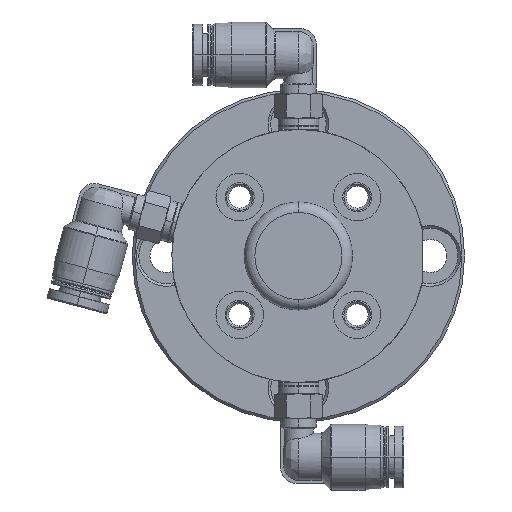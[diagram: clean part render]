
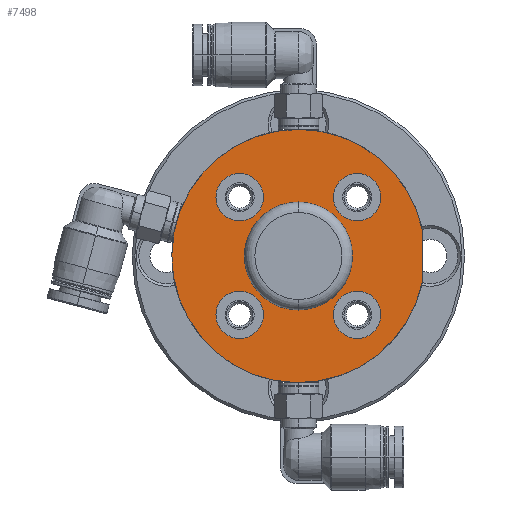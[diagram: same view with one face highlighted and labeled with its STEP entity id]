
A CAD part, front view. The second image highlights one B-rep face of the part: STEP entity #7498.
In plain terms, the highlighted planar face has unit normal (0, -1, 0).
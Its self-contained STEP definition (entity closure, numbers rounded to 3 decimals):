
#25 = VERTEX_POINT ( 'NONE', #13741 ) ;
#233 = CARTESIAN_POINT ( 'NONE',  ( 15.637, -22., -11.137 ) ) ;
#683 = CARTESIAN_POINT ( 'NONE',  ( -10.25, -22., 0. ) ) ;
#696 = AXIS2_PLACEMENT_3D ( 'NONE', #1076, #11694, #2615 ) ;
#739 = CIRCLE ( 'NONE', #2183, 4.5 ) ;
#836 = ORIENTED_EDGE ( 'NONE', *, *, #11054, .F. ) ;
#1005 = DIRECTION ( 'NONE',  ( -1., 0., 0. ) ) ;
#1052 = ORIENTED_EDGE ( 'NONE', *, *, #2400, .F. ) ;
#1076 = CARTESIAN_POINT ( 'NONE',  ( 11.137, -22., -11.137 ) ) ;
#1233 = ORIENTED_EDGE ( 'NONE', *, *, #15969, .F. ) ;
#1262 = AXIS2_PLACEMENT_3D ( 'NONE', #2568, #7577, #7435 ) ;
#1487 = ORIENTED_EDGE ( 'NONE', *, *, #17312, .F. ) ;
#1555 = ORIENTED_EDGE ( 'NONE', *, *, #11348, .T. ) ;
#1682 = EDGE_CURVE ( 'NONE', #8990, #12522, #2229, .T. ) ;
#1754 = VECTOR ( 'NONE', #2749, 1000. ) ;
#1881 = AXIS2_PLACEMENT_3D ( 'NONE', #6937, #17575, #8469 ) ;
#2022 = ORIENTED_EDGE ( 'NONE', *, *, #15635, .F. ) ;
#2056 = EDGE_LOOP ( 'NONE', ( #1487, #10799 ) ) ;
#2183 = AXIS2_PLACEMENT_3D ( 'NONE', #19328, #14458, #14476 ) ;
#2218 = EDGE_CURVE ( 'NONE', #2551, #7337, #739, .T. ) ;
#2229 = CIRCLE ( 'NONE', #1262, 4.5 ) ;
#2400 = EDGE_CURVE ( 'NONE', #7337, #2551, #9776, .T. ) ;
#2473 = FACE_OUTER_BOUND ( 'NONE', #15621, .T. ) ;
#2551 = VERTEX_POINT ( 'NONE', #7405 ) ;
#2568 = CARTESIAN_POINT ( 'NONE',  ( 11.137, -22., 11.137 ) ) ;
#2615 = DIRECTION ( 'NONE',  ( -1., 0., 0. ) ) ;
#2749 = DIRECTION ( 'NONE',  ( 0., 0., 1. ) ) ;
#3749 = VERTEX_POINT ( 'NONE', #8850 ) ;
#3756 = DIRECTION ( 'NONE',  ( 0., -1., 0. ) ) ;
#3811 = CARTESIAN_POINT ( 'NONE',  ( -11.137, -22., -11.137 ) ) ;
#4041 = AXIS2_PLACEMENT_3D ( 'NONE', #12810, #3756, #14359 ) ;
#4485 = CIRCLE ( 'NONE', #18069, 4.5 ) ;
#4916 = DIRECTION ( 'NONE',  ( 0., 1., 0. ) ) ;
#5148 = DIRECTION ( 'NONE',  ( 0., -1., 0. ) ) ;
#5327 = CIRCLE ( 'NONE', #1881, 4.5 ) ;
#5580 = AXIS2_PLACEMENT_3D ( 'NONE', #13989, #4916, #15518 ) ;
#5826 = LINE ( 'NONE', #7173, #1754 ) ;
#6217 = CARTESIAN_POINT ( 'NONE',  ( 0., -22., 0. ) ) ;
#6480 = CARTESIAN_POINT ( 'NONE',  ( -11.137, -22., 11.137 ) ) ;
#6555 = FACE_BOUND ( 'NONE', #13467, .T. ) ;
#6933 = AXIS2_PLACEMENT_3D ( 'NONE', #3811, #8240, #6963 ) ;
#6937 = CARTESIAN_POINT ( 'NONE',  ( 11.137, -22., 11.137 ) ) ;
#6958 = CARTESIAN_POINT ( 'NONE',  ( 6.637, -22., 11.137 ) ) ;
#6963 = DIRECTION ( 'NONE',  ( -1., 0., 0. ) ) ;
#7077 = ORIENTED_EDGE ( 'NONE', *, *, #11667, .F. ) ;
#7089 = VERTEX_POINT ( 'NONE', #17279 ) ;
#7173 = CARTESIAN_POINT ( 'NONE',  ( 23.5, -22., 0. ) ) ;
#7337 = VERTEX_POINT ( 'NONE', #13917 ) ;
#7405 = CARTESIAN_POINT ( 'NONE',  ( -15.637, -22., -11.137 ) ) ;
#7435 = DIRECTION ( 'NONE',  ( -1., 0., 0. ) ) ;
#7498 = ADVANCED_FACE ( 'NONE', ( #18699, #15057, #10559, #6555, #14585, #2473 ), #11363, .F. ) ;
#7510 = DIRECTION ( 'NONE',  ( 0., -1., 0. ) ) ;
#7549 = ORIENTED_EDGE ( 'NONE', *, *, #12096, .F. ) ;
#7577 = DIRECTION ( 'NONE',  ( 0., -1., 0. ) ) ;
#7752 = DIRECTION ( 'NONE',  ( 1., 0., 0. ) ) ;
#8026 = CARTESIAN_POINT ( 'NONE',  ( 15.637, -22., 11.137 ) ) ;
#8031 = DIRECTION ( 'NONE',  ( -1., 0., 0. ) ) ;
#8240 = DIRECTION ( 'NONE',  ( 0., -1., 0. ) ) ;
#8433 = CARTESIAN_POINT ( 'NONE',  ( 0., -22., 0. ) ) ;
#8469 = DIRECTION ( 'NONE',  ( -1., 0., 0. ) ) ;
#8850 = CARTESIAN_POINT ( 'NONE',  ( -6.637, -22., 11.137 ) ) ;
#8990 = VERTEX_POINT ( 'NONE', #8026 ) ;
#9434 = EDGE_LOOP ( 'NONE', ( #7077, #2022 ) ) ;
#9776 = CIRCLE ( 'NONE', #6933, 4.5 ) ;
#9922 = DIRECTION ( 'NONE',  ( 0., 0., 1. ) ) ;
#10135 = DIRECTION ( 'NONE',  ( 0., -1., 0. ) ) ;
#10329 = AXIS2_PLACEMENT_3D ( 'NONE', #8433, #19079, #9922 ) ;
#10538 = ORIENTED_EDGE ( 'NONE', *, *, #2218, .F. ) ;
#10559 = FACE_BOUND ( 'NONE', #17295, .T. ) ;
#10633 = EDGE_LOOP ( 'NONE', ( #7549, #17780 ) ) ;
#10799 = ORIENTED_EDGE ( 'NONE', *, *, #1682, .F. ) ;
#11054 = EDGE_CURVE ( 'NONE', #11620, #19781, #12225, .T. ) ;
#11299 = EDGE_CURVE ( 'NONE', #13716, #7089, #11727, .T. ) ;
#11348 = EDGE_CURVE ( 'NONE', #11620, #25, #5826, .T. ) ;
#11363 = PLANE ( 'NONE',  #10329 ) ;
#11568 = AXIS2_PLACEMENT_3D ( 'NONE', #19285, #10135, #1005 ) ;
#11620 = VERTEX_POINT ( 'NONE', #15366 ) ;
#11659 = CARTESIAN_POINT ( 'NONE',  ( 10.25, -22., 0. ) ) ;
#11667 = EDGE_CURVE ( 'NONE', #19485, #12977, #16008, .T. ) ;
#11694 = DIRECTION ( 'NONE',  ( 0., -1., 0. ) ) ;
#11727 = CIRCLE ( 'NONE', #696, 4.5 ) ;
#11733 = AXIS2_PLACEMENT_3D ( 'NONE', #6217, #16865, #7752 ) ;
#11949 = ORIENTED_EDGE ( 'NONE', *, *, #18790, .F. ) ;
#12096 = EDGE_CURVE ( 'NONE', #7089, #13716, #15059, .T. ) ;
#12225 = CIRCLE ( 'NONE', #5580, 24. ) ;
#12522 = VERTEX_POINT ( 'NONE', #6958 ) ;
#12810 = CARTESIAN_POINT ( 'NONE',  ( 0., -22., 0. ) ) ;
#12977 = VERTEX_POINT ( 'NONE', #11659 ) ;
#13467 = EDGE_LOOP ( 'NONE', ( #10538, #1052 ) ) ;
#13716 = VERTEX_POINT ( 'NONE', #233 ) ;
#13741 = CARTESIAN_POINT ( 'NONE',  ( 23.5, -22., 4.873 ) ) ;
#13917 = CARTESIAN_POINT ( 'NONE',  ( -6.637, -22., -11.137 ) ) ;
#13989 = CARTESIAN_POINT ( 'NONE',  ( 0., -22., 0. ) ) ;
#14224 = CARTESIAN_POINT ( 'NONE',  ( 11.137, -22., -11.137 ) ) ;
#14359 = DIRECTION ( 'NONE',  ( -1., 0., 0. ) ) ;
#14458 = DIRECTION ( 'NONE',  ( 0., -1., 0. ) ) ;
#14476 = DIRECTION ( 'NONE',  ( -1., 0., 0. ) ) ;
#14585 = FACE_BOUND ( 'NONE', #9434, .T. ) ;
#15057 = FACE_BOUND ( 'NONE', #10633, .T. ) ;
#15059 = CIRCLE ( 'NONE', #15400, 4.5 ) ;
#15120 = CARTESIAN_POINT ( 'NONE',  ( 0., -22., 24. ) ) ;
#15366 = CARTESIAN_POINT ( 'NONE',  ( 23.5, -22., -4.873 ) ) ;
#15400 = AXIS2_PLACEMENT_3D ( 'NONE', #14224, #5148, #15756 ) ;
#15518 = DIRECTION ( 'NONE',  ( 1., 0., 0. ) ) ;
#15621 = EDGE_LOOP ( 'NONE', ( #1233, #836, #1555 ) ) ;
#15635 = EDGE_CURVE ( 'NONE', #12977, #19485, #16720, .T. ) ;
#15756 = DIRECTION ( 'NONE',  ( -1., 0., 0. ) ) ;
#15825 = ORIENTED_EDGE ( 'NONE', *, *, #18015, .F. ) ;
#15969 = EDGE_CURVE ( 'NONE', #19781, #25, #17782, .T. ) ;
#16008 = CIRCLE ( 'NONE', #4041, 10.25 ) ;
#16126 = VERTEX_POINT ( 'NONE', #17127 ) ;
#16601 = CARTESIAN_POINT ( 'NONE',  ( 0., -22., 0. ) ) ;
#16720 = CIRCLE ( 'NONE', #19060, 10.25 ) ;
#16865 = DIRECTION ( 'NONE',  ( 0., 1., 0. ) ) ;
#17119 = DIRECTION ( 'NONE',  ( 0., -1., 0. ) ) ;
#17127 = CARTESIAN_POINT ( 'NONE',  ( -15.637, -22., 11.137 ) ) ;
#17279 = CARTESIAN_POINT ( 'NONE',  ( 6.637, -22., -11.137 ) ) ;
#17295 = EDGE_LOOP ( 'NONE', ( #11949, #15825 ) ) ;
#17312 = EDGE_CURVE ( 'NONE', #12522, #8990, #5327, .T. ) ;
#17575 = DIRECTION ( 'NONE',  ( 0., -1., 0. ) ) ;
#17648 = CIRCLE ( 'NONE', #11568, 4.5 ) ;
#17780 = ORIENTED_EDGE ( 'NONE', *, *, #11299, .F. ) ;
#17782 = CIRCLE ( 'NONE', #11733, 24. ) ;
#18015 = EDGE_CURVE ( 'NONE', #3749, #16126, #17648, .T. ) ;
#18069 = AXIS2_PLACEMENT_3D ( 'NONE', #6480, #17119, #8031 ) ;
#18148 = DIRECTION ( 'NONE',  ( -1., 0., 0. ) ) ;
#18699 = FACE_BOUND ( 'NONE', #2056, .T. ) ;
#18790 = EDGE_CURVE ( 'NONE', #16126, #3749, #4485, .T. ) ;
#19060 = AXIS2_PLACEMENT_3D ( 'NONE', #16601, #7510, #18148 ) ;
#19079 = DIRECTION ( 'NONE',  ( 0., 1., 0. ) ) ;
#19285 = CARTESIAN_POINT ( 'NONE',  ( -11.137, -22., 11.137 ) ) ;
#19328 = CARTESIAN_POINT ( 'NONE',  ( -11.137, -22., -11.137 ) ) ;
#19485 = VERTEX_POINT ( 'NONE', #683 ) ;
#19781 = VERTEX_POINT ( 'NONE', #15120 ) ;
